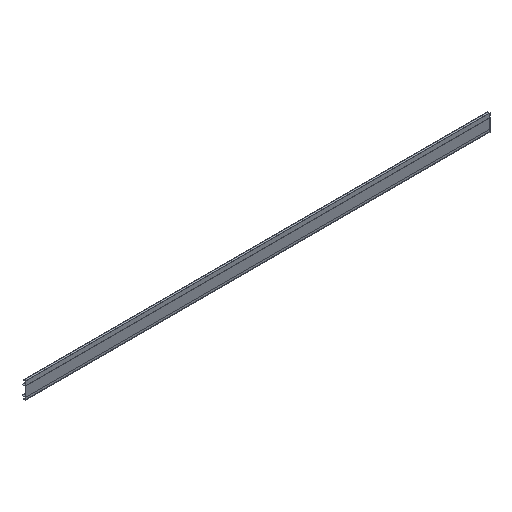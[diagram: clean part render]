
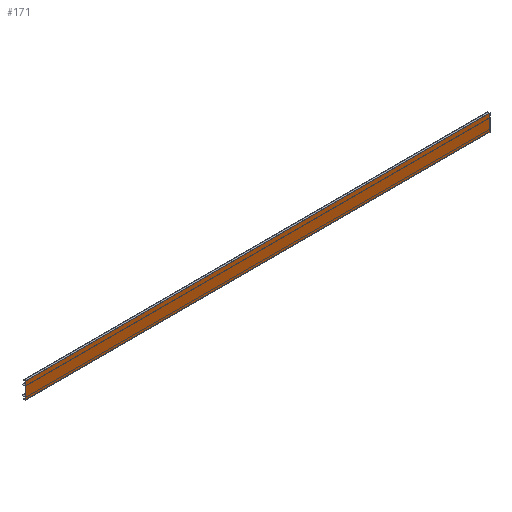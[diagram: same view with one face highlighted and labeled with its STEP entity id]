
A CAD part, isometric view. The second image highlights one B-rep face of the part: STEP entity #171.
In plain terms, the highlighted planar face has unit normal (0, -1, 0).
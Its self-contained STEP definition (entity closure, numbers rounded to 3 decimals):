
#171=ADVANCED_FACE('',(#360),#361,.T.);
#360=FACE_OUTER_BOUND('',#560,.T.);
#361=PLANE('',#561);
#560=EDGE_LOOP('',(#1004,#1005,#1006,#1007));
#561=AXIS2_PLACEMENT_3D('',#1008,#1009,#1010);
#1004=ORIENTED_EDGE('',*,*,#1372,.T.);
#1005=ORIENTED_EDGE('',*,*,#1373,.T.);
#1006=ORIENTED_EDGE('',*,*,#1374,.F.);
#1007=ORIENTED_EDGE('',*,*,#1375,.F.);
#1008=CARTESIAN_POINT('',(2500.0,0.,-72.0));
#1009=DIRECTION('',(0.,-1.0,0.0));
#1010=DIRECTION('',(0.,0.,1.0));
#1372=EDGE_CURVE('',#1682,#1683,#1684,.T.);
#1373=EDGE_CURVE('',#1683,#1685,#1686,.T.);
#1374=EDGE_CURVE('',#1687,#1685,#1688,.T.);
#1375=EDGE_CURVE('',#1682,#1687,#1689,.T.);
#1682=VERTEX_POINT('',#2102);
#1683=VERTEX_POINT('',#2103);
#1684=LINE('',#2104,#2105);
#1685=VERTEX_POINT('',#2106);
#1686=LINE('',#2107,#2108);
#1687=VERTEX_POINT('',#2109);
#1688=LINE('',#2110,#2111);
#1689=LINE('',#2112,#2113);
#2102=CARTESIAN_POINT('',(2000.0,0.,-72.0));
#2103=CARTESIAN_POINT('',(2000.0,0.,0.0));
#2104=CARTESIAN_POINT('',(2000.0,0.,-72.0));
#2105=VECTOR('',#2458,1.0);
#2106=CARTESIAN_POINT('',(0.0,0.,0.0));
#2107=CARTESIAN_POINT('',(2500.0,0.,0.0));
#2108=VECTOR('',#2459,1.0);
#2109=CARTESIAN_POINT('',(0.0,0.,-72.0));
#2110=CARTESIAN_POINT('',(0.0,0.,-72.0));
#2111=VECTOR('',#2460,1.0);
#2112=CARTESIAN_POINT('',(2500.0,0.,-72.0));
#2113=VECTOR('',#2461,1.0);
#2458=DIRECTION('',(0.,0.,1.0));
#2459=DIRECTION('',(-1.0,0.,0.));
#2460=DIRECTION('',(0.,0.0,1.0));
#2461=DIRECTION('',(-1.0,0.,0.));
